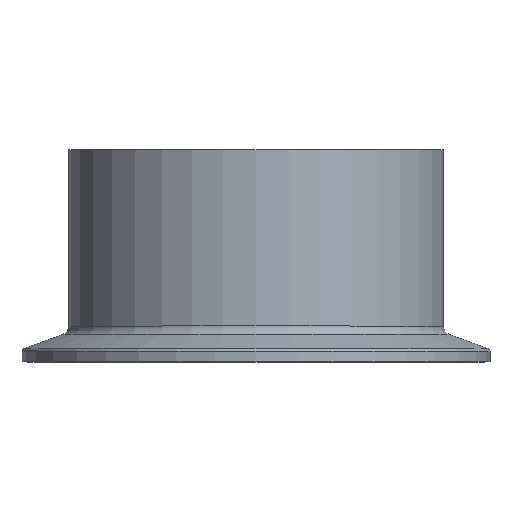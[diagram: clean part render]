
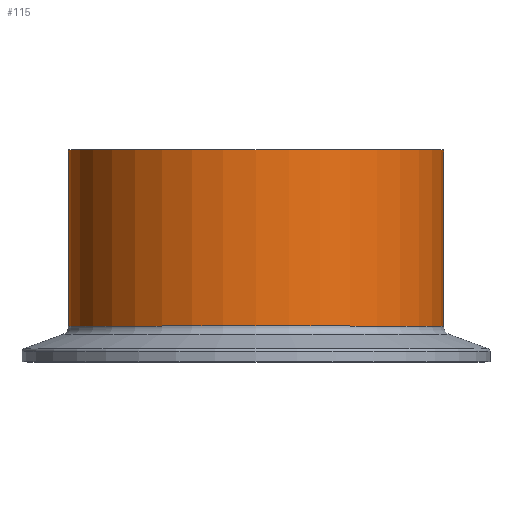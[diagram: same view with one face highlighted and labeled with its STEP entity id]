
A CAD part, top view. The second image highlights one B-rep face of the part: STEP entity #115.
In plain terms, the highlighted cylindrical face has radius 42.5 mm (diameter 85 mm), a full revolution.
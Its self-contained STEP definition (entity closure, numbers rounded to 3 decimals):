
#73=CARTESIAN_POINT('',(42.5,48.,0.0));
#74=VERTEX_POINT('',#73);
#75=CARTESIAN_POINT('',(0.0,48.,0.0));
#76=DIRECTION('',(0.0,-1.0,0.0));
#77=DIRECTION('',(1.0,0.0,0.0));
#78=AXIS2_PLACEMENT_3D('',#75,#76,#77);
#79=CIRCLE('',#78,42.5);
#80=EDGE_CURVE('',#74,#74,#79,.T.);
#96=CARTESIAN_POINT('',(0.0,28.036,0.0));
#97=DIRECTION('',(0.0,-1.0,0.0));
#98=DIRECTION('',(1.0,0.0,0.0));
#99=AXIS2_PLACEMENT_3D('',#96,#97,#98);
#100=CYLINDRICAL_SURFACE('',#99,42.5);
#101=CARTESIAN_POINT('',(42.5,8.072,0.0));
#102=VERTEX_POINT('',#101);
#103=CARTESIAN_POINT('',(0.0,8.072,0.0));
#104=DIRECTION('',(0.0,-1.0,0.0));
#105=DIRECTION('',(1.0,0.0,0.0));
#106=AXIS2_PLACEMENT_3D('',#103,#104,#105);
#107=CIRCLE('',#106,42.5);
#108=EDGE_CURVE('',#102,#102,#107,.T.);
#109=ORIENTED_EDGE('',*,*,#108,.F.);
#110=EDGE_LOOP('',(#109));
#111=FACE_OUTER_BOUND('',#110,.T.);
#112=ORIENTED_EDGE('',*,*,#80,.T.);
#113=EDGE_LOOP('',(#112));
#114=FACE_BOUND('',#113,.T.);
#115=ADVANCED_FACE('',(#111,#114),#100,.T.);
